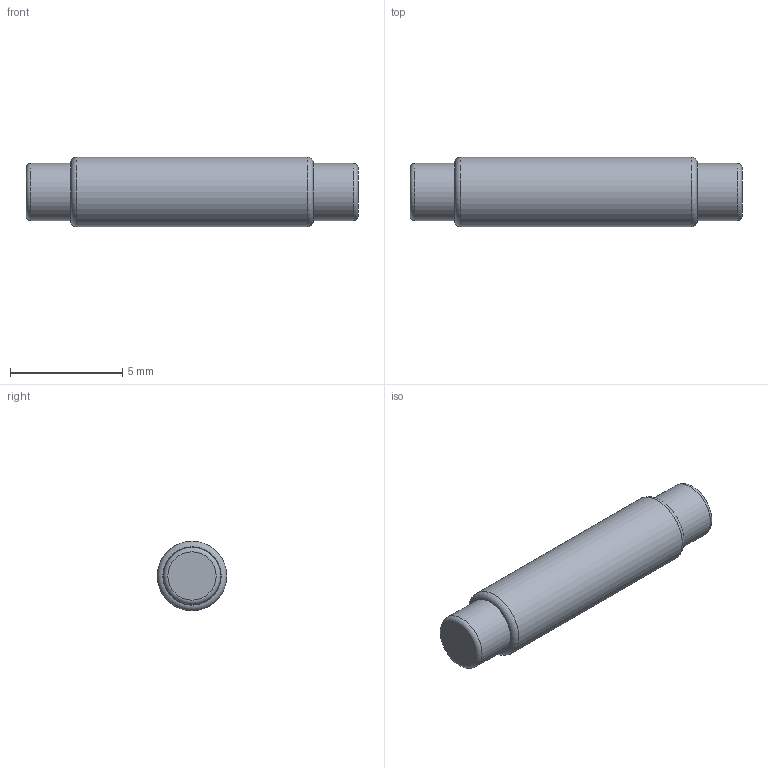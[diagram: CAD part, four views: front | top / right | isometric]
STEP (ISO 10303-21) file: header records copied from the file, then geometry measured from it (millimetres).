
FILE_DESCRIPTION(('STEP AP203'), '1');
FILE_NAME('C6-3', '', ('UNSPECIFIED'), ('UNSPECIFIED'), 'ASCON STEP Converter 1.6', 'ASCON Math Kernel', '');
FILE_SCHEMA(('CONFIG_CONTROL_DESIGN'));
Length unit declared in the file: millimetre
Bounding box: 14.8 x 3.1 x 3.1 mm (x, y, z)
Volume: 101.6 mm3; surface area: 148.8 mm2
Topology: 1 solids, 1 shells, 11 faces, 17 edges, 10 vertices
Faces by surface type: plane 4, torus 4, cylinder 3
Full cylindrical faces by diameter (mm): 2.55 x2, 3.1 x1
Entity records: 346 total; most frequent: DIRECTION 44, CARTESIAN_POINT 32, AXIS2_PLACEMENT_3D 22, EDGE_LOOP 20, ORIENTED_EDGE 20, FACE_OUTER_BOUND 14, COLOUR_RGB 12, FILL_AREA_STYLE_COLOUR 12
